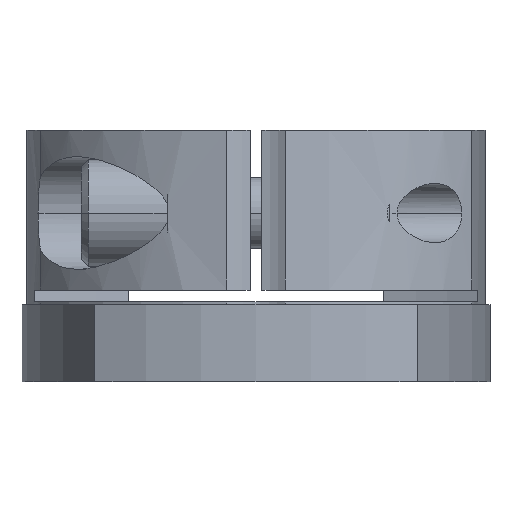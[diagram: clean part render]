
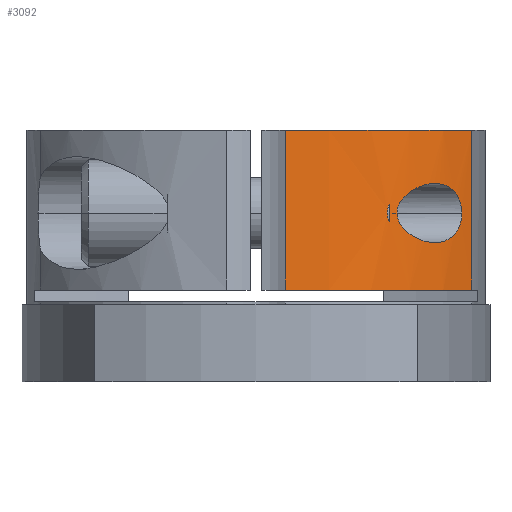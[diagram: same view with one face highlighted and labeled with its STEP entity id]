
A CAD part, front view. The second image highlights one B-rep face of the part: STEP entity #3092.
In plain terms, the highlighted cylindrical face has radius 44 mm (diameter 88 mm), a partial arc.
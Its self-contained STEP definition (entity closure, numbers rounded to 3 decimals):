
#451=CARTESIAN_POINT('',(34.742,-27.,22.0));
#452=VERTEX_POINT('',#451);
#461=CARTESIAN_POINT('',(23.812,-37.,22.0));
#462=VERTEX_POINT('',#461);
#463=CARTESIAN_POINT('',(23.812,-37.,22.0));
#464=CARTESIAN_POINT('',(23.812,-37.,22.322));
#465=CARTESIAN_POINT('',(23.861,-36.969,22.639));
#466=CARTESIAN_POINT('',(24.041,-36.852,23.248));
#467=CARTESIAN_POINT('',(24.172,-36.766,23.54));
#468=CARTESIAN_POINT('',(24.492,-36.554,24.085));
#469=CARTESIAN_POINT('',(24.68,-36.427,24.339));
#470=CARTESIAN_POINT('',(25.085,-36.15,24.802));
#471=CARTESIAN_POINT('',(25.302,-35.999,25.011));
#472=CARTESIAN_POINT('',(25.857,-35.603,25.487));
#473=CARTESIAN_POINT('',(26.228,-35.332,25.747));
#474=CARTESIAN_POINT('',(27.004,-34.742,26.198));
#475=CARTESIAN_POINT('',(27.409,-34.424,26.388));
#476=CARTESIAN_POINT('',(28.224,-33.759,26.695));
#477=CARTESIAN_POINT('',(28.635,-33.411,26.81));
#478=CARTESIAN_POINT('',(29.437,-32.707,26.963));
#479=CARTESIAN_POINT('',(29.829,-32.35,27.0));
#480=CARTESIAN_POINT('',(30.519,-31.698,27.0));
#481=CARTESIAN_POINT('',(30.848,-31.378,26.972));
#482=CARTESIAN_POINT('',(31.499,-30.725,26.846));
#483=CARTESIAN_POINT('',(31.821,-30.392,26.748));
#484=CARTESIAN_POINT('',(32.434,-29.737,26.472));
#485=CARTESIAN_POINT('',(32.725,-29.414,26.296));
#486=CARTESIAN_POINT('',(33.262,-28.807,25.865));
#487=CARTESIAN_POINT('',(33.506,-28.521,25.612));
#488=CARTESIAN_POINT('',(33.87,-28.087,25.125));
#489=CARTESIAN_POINT('',(34.012,-27.914,24.897));
#490=CARTESIAN_POINT('',(34.267,-27.601,24.396));
#491=CARTESIAN_POINT('',(34.378,-27.462,24.122));
#492=CARTESIAN_POINT('',(34.559,-27.234,23.545));
#493=CARTESIAN_POINT('',(34.628,-27.146,23.24));
#494=CARTESIAN_POINT('',(34.72,-27.029,22.621));
#495=CARTESIAN_POINT('',(34.742,-27.,22.307));
#496=CARTESIAN_POINT('',(34.742,-27.,22.0));
#497=B_SPLINE_CURVE_WITH_KNOTS('',3,(#463,#464,#465,#466,#467,#468,#469,#470,#471,#472,#473,#474,#475,#476,#477,#478,#479,#480,#481,#482,#483,#484,#485,#486,#487,#488,#489,#490,#491,#492,#493,#494,#495,#496),.UNSPECIFIED.,.F.,.U.,(4,2,2,2,2,2,2,2,2,2,2,2,2,2,2,2,4),(18.932,19.897,20.862,21.827,22.792,24.32,25.848,27.376,28.905,30.224,31.544,32.864,34.184,35.104,36.024,36.944,37.865),.UNSPECIFIED.);
#498=EDGE_CURVE('',#462,#452,#497,.T.);
#1079=CARTESIAN_POINT('',(22.181,-38.,22.0));
#1080=VERTEX_POINT('',#1079);
#1087=CARTESIAN_POINT('',(22.5,-37.812,23.49));
#1088=VERTEX_POINT('',#1087);
#1096=CARTESIAN_POINT('',(22.181,-38.,22.0));
#1097=CARTESIAN_POINT('',(22.181,-38.,22.279));
#1098=CARTESIAN_POINT('',(22.215,-37.98,22.561));
#1099=CARTESIAN_POINT('',(22.335,-37.91,23.06));
#1100=CARTESIAN_POINT('',(22.409,-37.866,23.279));
#1101=CARTESIAN_POINT('',(22.5,-37.812,23.49));
#1102=B_SPLINE_CURVE_WITH_KNOTS('',3,(#1096,#1097,#1098,#1099,#1100,#1101),.UNSPECIFIED.,.F.,.U.,(4,2,4),(3.344,4.18,4.854),.UNSPECIFIED.);
#1103=EDGE_CURVE('',#1080,#1088,#1102,.T.);
#2110=CARTESIAN_POINT('',(22.5,-37.812,20.51));
#2111=VERTEX_POINT('',#2110);
#2112=CARTESIAN_POINT('',(22.5,-37.812,20.51));
#2113=CARTESIAN_POINT('',(22.409,-37.866,20.721));
#2114=CARTESIAN_POINT('',(22.335,-37.91,20.94));
#2115=CARTESIAN_POINT('',(22.215,-37.98,21.439));
#2116=CARTESIAN_POINT('',(22.181,-38.,21.721));
#2117=CARTESIAN_POINT('',(22.181,-38.,22.0));
#2118=B_SPLINE_CURVE_WITH_KNOTS('',3,(#2112,#2113,#2114,#2115,#2116,#2117),.UNSPECIFIED.,.F.,.U.,(4,2,4),(1.833,2.508,3.344),.UNSPECIFIED.);
#2119=EDGE_CURVE('',#2111,#1080,#2118,.T.);
#2152=CARTESIAN_POINT('',(22.5,-37.812,23.49));
#2153=DIRECTION('',(0.0,0.0,-1.0));
#2154=VECTOR('',#2153,2.98);
#2155=LINE('',#2152,#2154);
#2156=EDGE_CURVE('',#1088,#2111,#2155,.T.);
#2547=CARTESIAN_POINT('',(36.405,-24.712,36.0));
#2548=VERTEX_POINT('',#2547);
#2556=CARTESIAN_POINT('',(36.405,-24.712,9.0));
#2557=VERTEX_POINT('',#2556);
#2558=CARTESIAN_POINT('',(36.405,-24.712,9.0));
#2559=DIRECTION('',(0.0,0.0,1.0));
#2560=VECTOR('',#2559,27.0);
#2561=LINE('',#2558,#2560);
#2562=EDGE_CURVE('',#2557,#2548,#2561,.T.);
#2664=CARTESIAN_POINT('',(34.742,-27.,22.0));
#2665=CARTESIAN_POINT('',(34.742,-27.,21.693));
#2666=CARTESIAN_POINT('',(34.72,-27.029,21.379));
#2667=CARTESIAN_POINT('',(34.628,-27.146,20.76));
#2668=CARTESIAN_POINT('',(34.559,-27.234,20.455));
#2669=CARTESIAN_POINT('',(34.378,-27.462,19.878));
#2670=CARTESIAN_POINT('',(34.267,-27.601,19.604));
#2671=CARTESIAN_POINT('',(34.012,-27.914,19.103));
#2672=CARTESIAN_POINT('',(33.87,-28.087,18.875));
#2673=CARTESIAN_POINT('',(33.506,-28.521,18.388));
#2674=CARTESIAN_POINT('',(33.262,-28.807,18.135));
#2675=CARTESIAN_POINT('',(32.725,-29.414,17.704));
#2676=CARTESIAN_POINT('',(32.434,-29.737,17.528));
#2677=CARTESIAN_POINT('',(31.821,-30.392,17.252));
#2678=CARTESIAN_POINT('',(31.499,-30.725,17.154));
#2679=CARTESIAN_POINT('',(30.848,-31.378,17.028));
#2680=CARTESIAN_POINT('',(30.519,-31.698,17.0));
#2681=CARTESIAN_POINT('',(29.829,-32.35,17.0));
#2682=CARTESIAN_POINT('',(29.437,-32.707,17.037));
#2683=CARTESIAN_POINT('',(28.635,-33.411,17.19));
#2684=CARTESIAN_POINT('',(28.224,-33.759,17.305));
#2685=CARTESIAN_POINT('',(27.409,-34.424,17.612));
#2686=CARTESIAN_POINT('',(27.004,-34.742,17.802));
#2687=CARTESIAN_POINT('',(26.228,-35.332,18.253));
#2688=CARTESIAN_POINT('',(25.857,-35.603,18.513));
#2689=CARTESIAN_POINT('',(25.302,-35.999,18.989));
#2690=CARTESIAN_POINT('',(25.085,-36.15,19.198));
#2691=CARTESIAN_POINT('',(24.68,-36.427,19.661));
#2692=CARTESIAN_POINT('',(24.492,-36.554,19.915));
#2693=CARTESIAN_POINT('',(24.172,-36.766,20.46));
#2694=CARTESIAN_POINT('',(24.041,-36.852,20.752));
#2695=CARTESIAN_POINT('',(23.861,-36.969,21.361));
#2696=CARTESIAN_POINT('',(23.812,-37.,21.678));
#2697=CARTESIAN_POINT('',(23.812,-37.,22.0));
#2698=B_SPLINE_CURVE_WITH_KNOTS('',3,(#2664,#2665,#2666,#2667,#2668,#2669,#2670,#2671,#2672,#2673,#2674,#2675,#2676,#2677,#2678,#2679,#2680,#2681,#2682,#2683,#2684,#2685,#2686,#2687,#2688,#2689,#2690,#2691,#2692,#2693,#2694,#2695,#2696,#2697),.UNSPECIFIED.,.F.,.U.,(4,2,2,2,2,2,2,2,2,2,2,2,2,2,2,2,4),(0.0,0.92,1.841,2.761,3.681,5.001,6.321,7.64,8.96,10.488,12.016,13.545,15.073,16.038,17.003,17.967,18.932),.UNSPECIFIED.);
#2699=EDGE_CURVE('',#452,#462,#2698,.T.);
#2877=CARTESIAN_POINT('',(4.933,-43.723,36.0));
#2878=VERTEX_POINT('',#2877);
#2879=CARTESIAN_POINT('',(4.933,-43.723,9.0));
#2880=VERTEX_POINT('',#2879);
#2881=CARTESIAN_POINT('',(4.933,-43.723,36.0));
#2882=DIRECTION('',(0.0,0.0,-1.0));
#2883=VECTOR('',#2882,27.0);
#2884=LINE('',#2881,#2883);
#2885=EDGE_CURVE('',#2878,#2880,#2884,.T.);
#3060=CARTESIAN_POINT('',(0.,0.,-6.5));
#3061=DIRECTION('',(0.0,0.0,1.0));
#3062=DIRECTION('',(1.0,0.0,0.0));
#3063=AXIS2_PLACEMENT_3D('',#3060,#3061,#3062);
#3064=CYLINDRICAL_SURFACE('',#3063,44.);
#3065=ORIENTED_EDGE('',*,*,#2885,.T.);
#3066=CARTESIAN_POINT('',(0.,0.,9.0));
#3067=DIRECTION('',(0.0,0.0,1.0));
#3068=DIRECTION('',(1.0,0.0,0.0));
#3069=AXIS2_PLACEMENT_3D('',#3066,#3067,#3068);
#3070=CIRCLE('',#3069,44.);
#3071=EDGE_CURVE('',#2880,#2557,#3070,.T.);
#3072=ORIENTED_EDGE('',*,*,#3071,.T.);
#3073=ORIENTED_EDGE('',*,*,#2562,.T.);
#3074=CARTESIAN_POINT('',(0.,0.,36.0));
#3075=DIRECTION('',(0.0,0.0,-1.0));
#3076=DIRECTION('',(1.0,0.0,0.0));
#3077=AXIS2_PLACEMENT_3D('',#3074,#3075,#3076);
#3078=CIRCLE('',#3077,44.);
#3079=EDGE_CURVE('',#2548,#2878,#3078,.T.);
#3080=ORIENTED_EDGE('',*,*,#3079,.T.);
#3081=EDGE_LOOP('',(#3065,#3072,#3073,#3080));
#3082=FACE_OUTER_BOUND('',#3081,.T.);
#3083=ORIENTED_EDGE('',*,*,#2119,.T.);
#3084=ORIENTED_EDGE('',*,*,#1103,.T.);
#3085=ORIENTED_EDGE('',*,*,#2156,.T.);
#3086=EDGE_LOOP('',(#3083,#3084,#3085));
#3087=FACE_BOUND('',#3086,.T.);
#3088=ORIENTED_EDGE('',*,*,#2699,.T.);
#3089=ORIENTED_EDGE('',*,*,#498,.T.);
#3090=EDGE_LOOP('',(#3088,#3089));
#3091=FACE_BOUND('',#3090,.T.);
#3092=ADVANCED_FACE('',(#3082,#3087,#3091),#3064,.T.);
